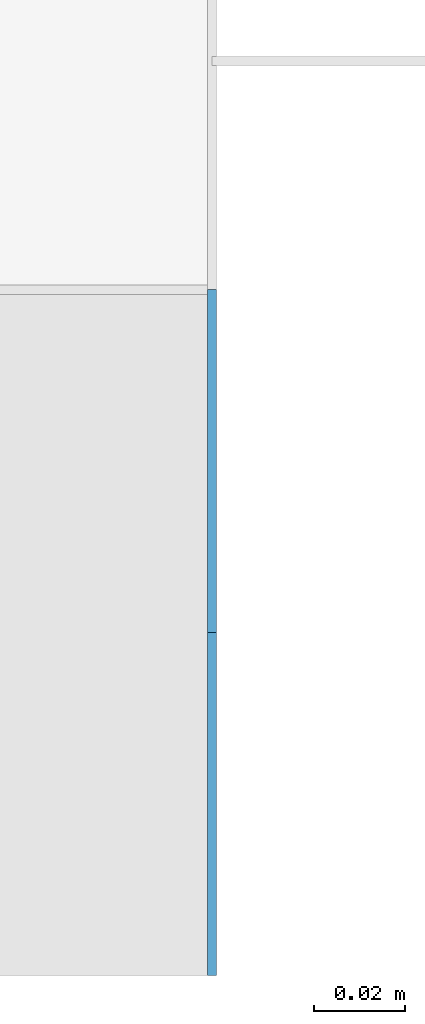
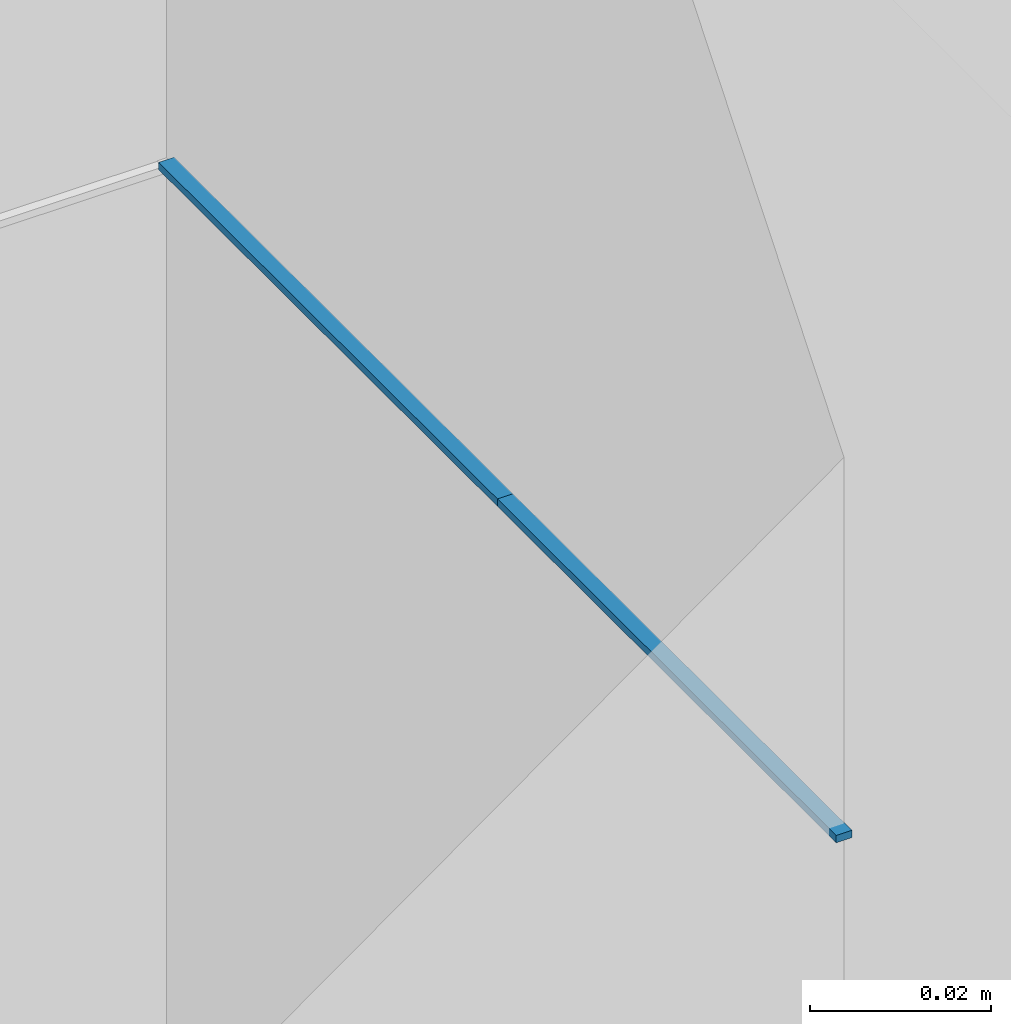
# One storey, part 10 of 17: 2 beams.
"""IFC2X3 building model written with IfcOpenShell, lengths in metres."""

from ifc_helpers import new_model, si_unit, direction, frame, origin_with_axes, place, context, subcontext, project, spatial, polyline, outline, extrude, material, type_object, element, save


model = new_model("IFC2X3")

# Units and contexts
model_context = context("Model", 3, precision=0.0001, world=origin_with_axes(), true_north=direction((0.0, 1.0)))
plan_context = context("Plan", 2, precision=0.0001, world=origin_with_axes(), true_north=direction((0.0, 1.0)))
body_context = subcontext(model_context, "Body", "Model", "MODEL_VIEW")
ifc_project = project(units=[si_unit("MASSUNIT", "GRAM", prefix="KILO"), si_unit("AREAUNIT", "SQUARE_METRE"), si_unit("LENGTHUNIT", "METRE"), si_unit("VOLUMEUNIT", "CUBIC_METRE")], contexts=[plan_context, model_context])

# Site, building, storey
site_placement = place(None, origin_with_axes())
site = spatial("IfcSite", under=ifc_project, at=site_placement, Name="$", CompositionType="ELEMENT")
building_placement = place(site_placement, origin_with_axes())
building = spatial("IfcBuilding", under=site, at=building_placement, Name="Classeur ENS Ensemble", CompositionType="ELEMENT")
storey_placement = place(building_placement, frame((-20.30778888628, -1.812671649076, 0.0), z_axis=(0.0, 0.0, 1.0), x_axis=(1.0, 0.0, 0.0)))
storey = spatial("IfcBuildingStorey", under=building, at=storey_placement, Name="001 RdC", CompositionType="ELEMENT", Elevation=0.0)

# Beams
ifc_material = material(Name="Default material")
beam_type = type_object("IfcBeamType", PredefinedType="BEAM")
beam_1_placement = place(storey_placement, frame((23.6132953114, -13.13232835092, 3.059999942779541), z_axis=(0.0, 0.0, 1.0), x_axis=(0.0, 1.0, 0.0)))
element("IfcBeam", 1, at=beam_1_placement, inside=storey, type_object=beam_type, material=ifc_material, Name="poutre fictive 306", context=body_context, shape_type="SweptSolid", held_by="IfcProductRepresentation", body=[
    extrude(outline(polyline([(0.0, 0.001000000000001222), (0.0, 0.001000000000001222), (0.0, 0.001000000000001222), (0.07500000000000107, 0.001000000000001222), (0.07500000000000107, 0.001000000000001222), (0.07500000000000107, 0.001000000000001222), (0.07500000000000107, -0.0009999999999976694), (0.07500000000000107, -0.0009999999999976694), (0.07500000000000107, -0.0009999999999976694), (0.0, -0.0009999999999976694), (0.0, -0.0009999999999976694), (0.0, -0.0009999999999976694), (0.0, 0.001000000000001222)])), origin_with_axes(), (0.0, 0.0, 1.0), 0.001),
])
beam_2_placement = place(storey_placement, frame((23.6132953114, -13.05732835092, 3.059999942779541), z_axis=(0.0, 0.0, 1.0), x_axis=(0.0, 1.0, 0.0)))
element("IfcBeam", 2, at=beam_2_placement, inside=storey, type_object=beam_type, material=ifc_material, Name="poutre fictive 306", context=body_context, shape_type="SweptSolid", held_by="IfcProductRepresentation", body=[
    extrude(outline(polyline([(0.0, 0.001000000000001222), (0.0, 0.001000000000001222), (0.0, 0.001000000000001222), (0.07499999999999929, 0.001000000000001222), (0.07499999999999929, 0.001000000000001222), (0.07499999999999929, 0.001000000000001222), (0.07499999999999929, -0.0009999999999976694), (0.07499999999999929, -0.0009999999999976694), (0.07499999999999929, -0.0009999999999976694), (0.0, -0.0009999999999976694), (0.0, -0.0009999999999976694), (0.0, -0.0009999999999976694), (0.0, 0.001000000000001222)])), origin_with_axes(), (0.0, 0.0, 1.0), 0.001),
])

save(model, "model.ifc")
